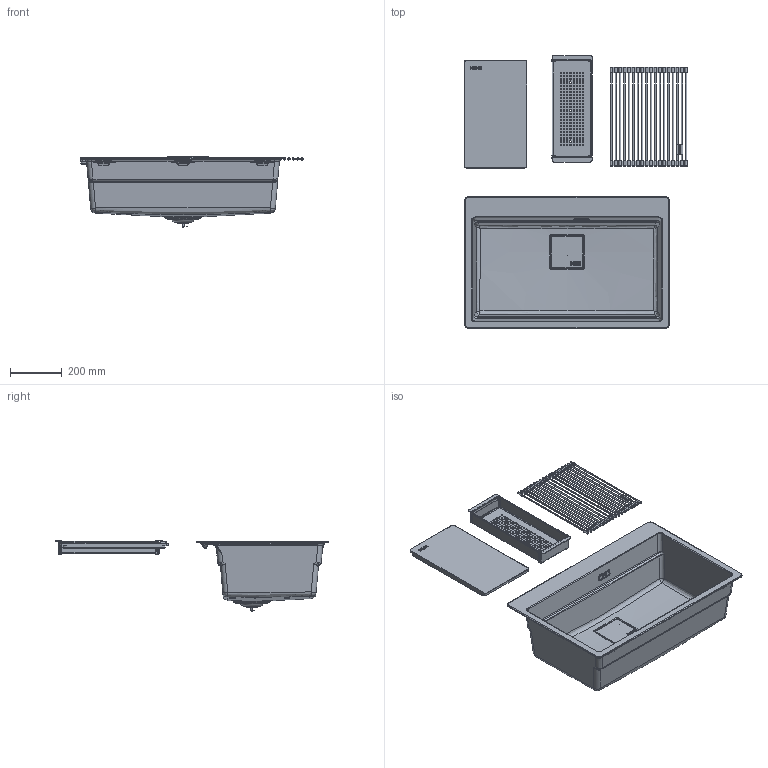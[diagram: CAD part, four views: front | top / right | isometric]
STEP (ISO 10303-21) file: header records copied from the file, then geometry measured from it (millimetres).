
FILE_DESCRIPTION(/* description */ (''),/* implementation_level */ '2;1');
FILE_NAME(/* name */ '3D001_Sinks_Kubus-2-Pro_KNG-PRO-610-73-FTL',/* time_stamp */ '2026-07-02T14:46:48+02:00',/* author */ (''),/* organization */ (''),/* preprocessor_version */ 'ST-DEVELOPER v19.2',/* originating_system */ 'Rhino 8.31',/* authorisation */ '');
FILE_SCHEMA (('CONFIG_CONTROL_DESIGN'));
Products named in the file (24): Document; 20118468_IAM_000; 20117565_IPT_00024; 20117567_IPT_00026; 20118466_IAM_000; 20117569_IPT_000; 20118465_IPT_000; Blocco 04; 20118464_IPT_000; 20117570_IPT_0002; 20116285_IPT_0004; 20117572_IPT_00020; 20202566_ipt_000; LOGO_SOLOBORDO_COPRISCARICO; 20284107_ipt_000; tagliere; 20111975_IPT_000; strainer_bowl; 20116746_IPT_0004; 20116745_IPT_0002; 20287072_ipt_000; 20116789_IPT_0002; 20287079_ipt_000; OVERFLOW
Bounding box: 860.56 x 1054.67 x 273.72 mm (x, y, z)
Volume: 8741389.1 mm3; surface area: 2486204.8 mm2
Topology: 66 solids, 73 shells, 6754 faces, 18455 edges, 11860 vertices
Faces by surface type: plane 3120, cylinder 2168, bspline 1466
Full cylindrical faces by diameter (mm): 3.9 x4, 4 x8, 4.7 x1, 4.8 x18, 4.85 x1, 5 x13, 5.05 x4, 5.2 x1, 5.25 x1, 5.994 x1, 6 x57, 6.2 x1, 8 x1, 8.25 x1, 12.6 x2, 13.743 x2, 14.3 x1, 28 x5, 33 x2, 36.5 x1, 38 x3, 47 x1, 84 x1
Entity records: 249253 total; most frequent: CARTESIAN_POINT 118861, ORIENTED_EDGE 32513, EDGE_CURVE 16328, DIRECTION 14343, B_SPLINE_CURVE_WITH_KNOTS 11067, VERTEX_POINT 10585, AXIS2_PLACEMENT_3D 9524, EDGE_LOOP 6550
